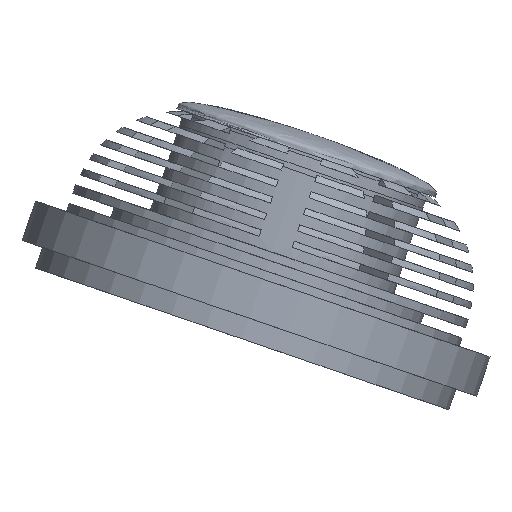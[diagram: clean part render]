
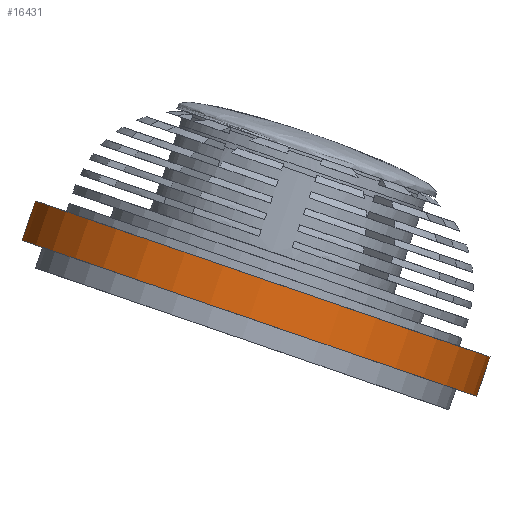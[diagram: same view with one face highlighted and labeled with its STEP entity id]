
A CAD part, left-side view. The second image highlights one B-rep face of the part: STEP entity #16431.
In plain terms, the highlighted cylindrical face has radius 55 mm (diameter 110 mm), a full revolution.
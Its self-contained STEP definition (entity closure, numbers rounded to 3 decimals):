
#100=CYLINDRICAL_SURFACE('',#18446,55.);
#221=CIRCLE('',#18445,55.);
#222=CIRCLE('',#18447,55.);
#1347=LINE('',#109595,#2207);
#2207=VECTOR('',#21814,55.);
#4053=FACE_OUTER_BOUND('',#5187,.T.);
#5187=EDGE_LOOP('',(#13340,#13341,#13342,#13343));
#7849=VERTEX_POINT('',#109590);
#7850=VERTEX_POINT('',#109594);
#10087=EDGE_CURVE('',#7849,#7849,#221,.T.);
#10088=EDGE_CURVE('',#7849,#7850,#1347,.T.);
#10089=EDGE_CURVE('',#7850,#7850,#222,.T.);
#13340=ORIENTED_EDGE('',*,*,#10087,.T.);
#13341=ORIENTED_EDGE('',*,*,#10088,.T.);
#13342=ORIENTED_EDGE('',*,*,#10089,.F.);
#13343=ORIENTED_EDGE('',*,*,#10088,.F.);
#16431=ADVANCED_FACE('',(#4053),#100,.T.);
#18445=AXIS2_PLACEMENT_3D('',#109592,#21810,#21811);
#18446=AXIS2_PLACEMENT_3D('',#109593,#21812,#21813);
#18447=AXIS2_PLACEMENT_3D('',#109596,#21815,#21816);
#21810=DIRECTION('center_axis',(0.,0.324,-0.946));
#21811=DIRECTION('ref_axis',(1.,0.,0.));
#21812=DIRECTION('center_axis',(0.,-0.324,0.946));
#21813=DIRECTION('ref_axis',(-1.,0.,0.));
#21814=DIRECTION('',(0.,0.324,-0.946));
#21815=DIRECTION('center_axis',(0.,0.324,-0.946));
#21816=DIRECTION('ref_axis',(1.,0.,0.));
#109590=CARTESIAN_POINT('',(-1777.26,-7962.76,23.01));
#109592=CARTESIAN_POINT('Origin',(-1832.26,-7962.76,23.01));
#109593=CARTESIAN_POINT('Origin',(-1832.26,-7962.76,23.01));
#109594=CARTESIAN_POINT('',(-1777.26,-7959.678,14.024));
#109595=CARTESIAN_POINT('',(-1777.26,-7962.76,23.01));
#109596=CARTESIAN_POINT('Origin',(-1832.26,-7959.678,14.024));
